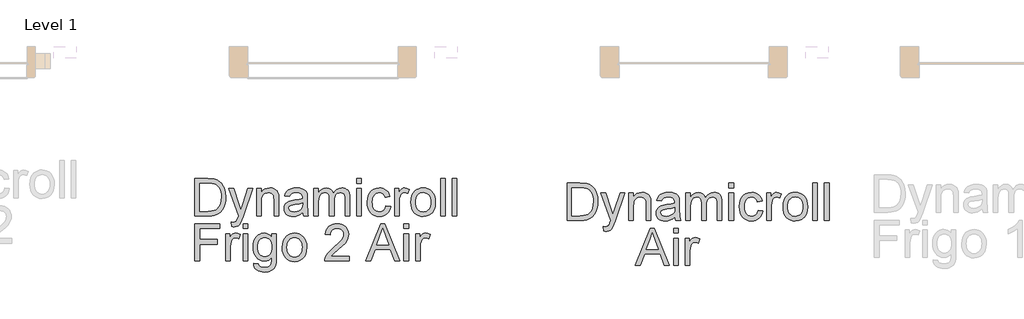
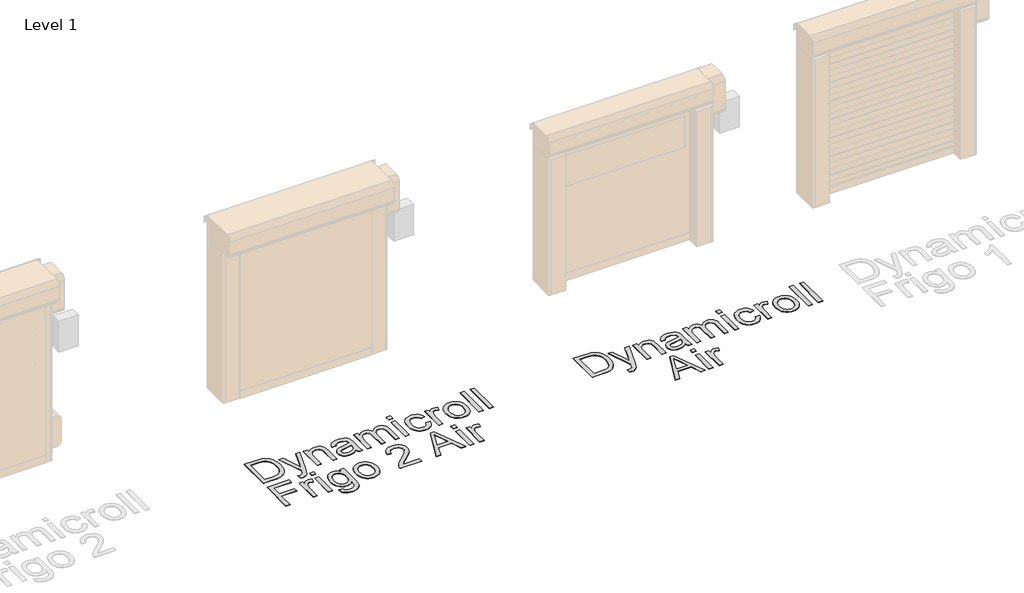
# One storey, part 5 of 20: 2 proxies.
"""IFC4 building model written with IfcOpenShell, lengths in millimetres."""

import ifcopenshell
import ifcopenshell.guid

model = None  # the IFC model being written
_history = None  # IfcOwnerHistory: only IFC2X3 demands one
_inside = {}  # id of a spatial element -> (the spatial element, [elements in it])
_under = {}  # id of a project, library or spatial element -> (it, [spatial elements below it])
_declared = {}  # id of a project -> (the project, [libraries it declares])
_typed = {}  # id of a type object -> (the type object, [elements of that type])
_made_of = {}  # id of a material, layer set ... -> (it, [elements and type objects made of it])


def new_model(schema):
    """Start an empty IFC model of exactly this schema.

    Asked for "IFC4X3", IfcOpenShell would pick the latest addendum, in which some entities
    have other attributes; the version numbers below select the first issue.
    IFC2X3 requires an IfcOwnerHistory on every rooted entity: one is made here for all.
    """
    global model, _history
    if schema == "IFC4X3":
        model = ifcopenshell.file(schema_version=(4, 3, 0, 0))
    else:
        model = ifcopenshell.file(schema=schema)
    _inside.clear()
    _under.clear()
    _declared.clear()
    _typed.clear()
    _made_of.clear()
    _history = None
    if model.schema == "IFC2X3":
        org = make("IfcOrganization", Name="unknown")
        user = make(
            "IfcPersonAndOrganization",
            ThePerson=make("IfcPerson", FamilyName="unknown"),
            TheOrganization=org,
        )
        app = make(
            "IfcApplication",
            ApplicationDeveloper=org,
            Version="unknown",
            ApplicationFullName="unknown",
            ApplicationIdentifier="unknown",
        )
        _history = make(
            "IfcOwnerHistory",
            OwningUser=user,
            OwningApplication=app,
            ChangeAction="ADDED",
            CreationDate=0,
        )
    return model


def make(cls, **values):
    """One entity of the class cls with the attributes given. An attribute that is None is left unset."""
    return model.create_entity(
        cls, **{name: value for name, value in values.items() if value is not None}
    )


def rooted(cls, **values):
    """An entity with a GlobalId (a new one), such as an element, a storey or a relation."""
    return make(cls, GlobalId=ifcopenshell.guid.new(), OwnerHistory=_history, **values)


def si_unit(unit_type, name, prefix=None):
    """IfcSIUnit, for example si_unit("LENGTHUNIT", "METRE", prefix="MILLI")."""
    return make("IfcSIUnit", UnitType=unit_type, Prefix=prefix, Name=name)


def assignment(units):
    """IfcUnitAssignment: the units of a project."""
    return None if units is None else make("IfcUnitAssignment", Units=units)


def point(xyz):
    """IfcCartesianPoint."""
    return None if xyz is None else make("IfcCartesianPoint", Coordinates=xyz)


def direction(xyz):
    """IfcDirection."""
    return None if xyz is None else make("IfcDirection", DirectionRatios=xyz)


def frame(location, z_axis=None, x_axis=None):
    """IfcAxis2Placement3D, a coordinate frame: its origin and axes. An axis left out is left unset."""
    return make(
        "IfcAxis2Placement3D",
        Location=point(location),
        Axis=direction(z_axis),
        RefDirection=direction(x_axis),
    )


def origin():
    """The frame at (0, 0, 0) with its axes left unset."""
    return frame((0.0, 0.0, 0.0))


def origin_with_axes():
    """The frame at (0, 0, 0) with the z axis (0, 0, 1) and the x axis (1, 0, 0) written out."""
    return frame((0.0, 0.0, 0.0), z_axis=(0.0, 0.0, 1.0), x_axis=(1.0, 0.0, 0.0))


def place(relative_to, where):
    """IfcLocalPlacement: puts the frame where relative to a parent placement (None: the world)."""
    return make(
        "IfcLocalPlacement", PlacementRelTo=relative_to, RelativePlacement=where
    )


def context(
    kind, dimensions, precision=None, world=None, true_north=None, identifier=None
):
    """IfcGeometricRepresentationContext, for example the 3D "Model" context."""
    return make(
        "IfcGeometricRepresentationContext",
        ContextIdentifier=identifier,
        ContextType=kind,
        CoordinateSpaceDimension=dimensions,
        Precision=precision,
        WorldCoordinateSystem=world,
        TrueNorth=true_north,
    )


def project(units=None, contexts=None):
    """IfcProject with its units and contexts."""
    return rooted(
        "IfcProject",
        Name="project",
        RepresentationContexts=contexts,
        UnitsInContext=assignment(units),
    )


def spatial(cls, under=None, at=None, **own):
    """A site, building, storey or space (cls), placed at a placement, below another one or the project."""
    s = rooted(cls, ObjectPlacement=at, **own)
    if under is not None:
        _under.setdefault(under.id(), (under, []))[1].append(s)
    return s


def polyline(points):
    """IfcPolyline through the points."""
    return make("IfcPolyline", Points=[point(p) for p in points])


def outline(outer, holes=None, kind="AREA"):
    """IfcArbitraryClosedProfileDef: a profile drawn as a closed curve; with holes, ...WithVoids."""
    if holes is None:
        return make("IfcArbitraryClosedProfileDef", ProfileType=kind, OuterCurve=outer)
    return make(
        "IfcArbitraryProfileDefWithVoids",
        ProfileType=kind,
        OuterCurve=outer,
        InnerCurves=holes,
    )


def extrude(swept, where, along, depth):
    """IfcExtrudedAreaSolid: the profile swept, set in the frame where, extruded along a direction by depth."""
    return make(
        "IfcExtrudedAreaSolid",
        SweptArea=swept,
        Position=where,
        ExtrudedDirection=direction(along),
        Depth=depth,
    )


def shape(context_of_items, identifier, shape_type, items):
    """IfcShapeRepresentation: the items that make up one representation, for example the "Body"."""
    return make(
        "IfcShapeRepresentation",
        ContextOfItems=context_of_items,
        RepresentationIdentifier=identifier,
        RepresentationType=shape_type,
        Items=items,
    )


def made_of(thing, what):
    """Note that an element or type object is made of a material, layer set ...; save() writes the relation."""
    if what is not None:
        _made_of.setdefault(what.id(), (what, []))[1].append(thing)
    return thing


def element(
    cls,
    number,
    at=None,
    inside=None,
    cuts=None,
    type_object=None,
    material=None,
    context=None,
    identifier="Body",
    shape_type=None,
    held_by="IfcProductDefinitionShape",
    body=None,
    shapes=None,
    **own,
):
    """One element of the class cls, such as IfcWall. Its Tag is "e" and its number.

    at: its placement. inside: the storey or other place that contains it. cuts: it is an
    opening in that element (IfcRelVoidsElement). A single representation is given by context,
    identifier, shape_type and body (its items); several are given by shapes. held_by: the class
    of the entity that holds the representations. save() writes the other relations.
    """
    e = rooted(cls, Tag="e%d" % number, ObjectPlacement=at, **own)
    if body is not None:
        shapes = [shape(context, identifier, shape_type, body)]
    if shapes is not None:
        e.Representation = make(held_by, Representations=shapes)
    if inside is not None:
        _inside.setdefault(inside.id(), (inside, []))[1].append(e)
    if cuts is not None:
        rooted(
            "IfcRelVoidsElement", RelatingBuildingElement=cuts, RelatedOpeningElement=e
        )
    if type_object is not None:
        _typed.setdefault(type_object.id(), (type_object, []))[1].append(e)
    return made_of(e, material)


def aggregate(whole, parts):
    """IfcRelAggregates: a whole, such as a stair, and the parts it consists of."""
    return rooted("IfcRelAggregates", RelatingObject=whole, RelatedObjects=parts)


def save(model, path):
    """Write the relations noted so far, then the file.

    IfcRelAggregates (storeys below a building ...), IfcRelContainedInSpatialStructure (elements
    in a storey), IfcRelDefinesByType, IfcRelAssociatesMaterial and IfcRelDeclares: one each for
    every whole, place, type object, material and project.
    """
    for whole, parts in _under.values():
        aggregate(whole, parts)
    for where, things in _inside.values():
        rooted(
            "IfcRelContainedInSpatialStructure",
            RelatedElements=things,
            RelatingStructure=where,
        )
    for kind, things in _typed.values():
        rooted("IfcRelDefinesByType", RelatedObjects=things, RelatingType=kind)
    for what, things in _made_of.values():
        rooted("IfcRelAssociatesMaterial", RelatedObjects=things, RelatingMaterial=what)
    for by, libraries in _declared.values():
        rooted("IfcRelDeclares", RelatingContext=by, RelatedDefinitions=libraries)
    model.write(path)


model = new_model("IFC4")

# Units and contexts
model_context = context("Model", 3, world=origin())
ifc_project = project(units=[si_unit("LENGTHUNIT", "METRE", prefix="MILLI")], contexts=[model_context])

# Site, building, storey
site = spatial("IfcSite", under=ifc_project)
building = spatial("IfcBuilding", under=site)
storey = spatial("IfcBuildingStorey", under=building, Name="Level 1", Elevation=0.0)

# Proxies
placement = place(None, origin())
element("IfcBuildingElementProxy", 1, Name="500mm", ObjectType="500mm", at=placement, inside=storey, context=model_context, shape_type="SweptSolid", body=[
    extrude(outline(polyline([(24771.8968294, 7368.7374399), (24771.8968294, 7871.0189907), (24945.1692491, 7871.0189907), (24996.94864, 7869.2102375), (25034.8098286, 7863.7839781), (25074.8476524, 7849.8351191), (25108.6314823, 7827.8541699), (25127.2478441, 7809.8892658), (25143.365674, 7789.5944424), (25156.9849721, 7766.9696997), (25168.1057382, 7742.0150377), (25182.9129885, 7686.0356608), (25187.8487386, 7622.5760166), (25184.5071438, 7568.6659759), (25174.4823595, 7521.2245269), (25159.2152567, 7480.8341495), (25140.1467066, 7448.0773235), (25118.1964142, 7422.218285), (25094.2840845, 7402.5212698), (25066.8308906, 7387.9132889), (25034.2580056, 7377.3213531), (24996.5041159, 7370.8834182), (24953.5079077, 7368.7374399), (24771.8968294, 7368.7374399)]), holes=[polyline([(24834.6820233, 7431.5226338), (24945.7823858, 7431.5226338), (24991.7369784, 7433.7912394), (25026.5937974, 7440.5970563), (25052.8973601, 7451.5415457), (25073.1921835, 7466.2261686), (25095.0045201, 7493.403451), (25111.3905973, 7528.5821668), (25121.6453079, 7571.9156002), (25125.0635448, 7623.5570352), (25123.3889153, 7660.0080096), (25118.3650268, 7691.9830863), (25109.9918793, 7719.4822655), (25098.2694728, 7742.505547), (25084.1481691, 7761.5740971), (25068.5783301, 7777.2090819), (25051.5599557, 7789.4105014), (25033.093046, 7798.1783556), (24996.9792968, 7805.7199365), (24944.0656032, 7808.2337968), (24834.6820233, 7808.2337968), (24834.6820233, 7431.5226338)])]), origin_with_axes(), (0.0, 0.0, 1.0), 5.0),
    extrude(outline(polyline([(25266.3302309, 7227.4707538), (25258.4820817, 7287.9260283), (25290.3651879, 7282.4077984), (25307.1344756, 7284.1399094), (25320.1636296, 7289.3362426), (25330.3110413, 7297.6289159), (25338.435102, 7308.6500474), (25355.6029284, 7354.8805514), (25360.5080217, 7370.0863406), (25227.0894848, 7737.6004537), (25293.3082439, 7737.6004537), (25364.0642143, 7532.8128098), (25388.712308, 7450.8977522), (25413.3604017, 7523.2478779), (25486.0784094, 7737.6004537), (25551.8066592, 7737.6004537), (25423.4158429, 7359.908272), (25390.0612086, 7277.9932144), (25372.9853527, 7251.8429359), (25353.6408911, 7233.7247477), (25331.1694326, 7223.1481403), (25304.7125858, 7219.6226045), (25286.5330838, 7221.5846418), (25266.3302309, 7227.4707538)])), origin_with_axes(), (0.0, 0.0, 1.0), 5.0),
    extrude(outline(polyline([(25603.8006478, 7368.7374399), (25603.8006478, 7737.6004537), (25666.5858417, 7737.6004537), (25666.5858417, 7686.0969744), (25688.3981783, 7712.0633119), (25714.594442, 7730.6106958), (25745.1746329, 7741.7391262), (25780.1387509, 7745.448603), (25811.0868237, 7742.4595618), (25839.4290657, 7733.4924381), (25863.0654839, 7719.6662065), (25879.8960852, 7702.0998412), (25891.3157555, 7680.8393276), (25898.7193806, 7655.9306508), (25902.0303186, 7595.2301216), (25902.0303186, 7368.7374399), (25839.2451247, 7368.7374399), (25839.2451247, 7586.7688357), (25837.4363716, 7619.2344218), (25832.0101122, 7642.319017), (25822.0006562, 7658.8583784), (25806.4423135, 7671.6882629), (25786.5000437, 7679.9196226), (25763.3388064, 7682.6634091), (25744.2740884, 7681.1229033), (25726.5659353, 7676.5013857), (25710.214347, 7668.7988564), (25695.2193236, 7658.0153155), (25682.6921753, 7642.9244894), (25673.7442122, 7622.3001051), (25668.3754343, 7596.1421624), (25666.5858417, 7564.4506613), (25666.5858417, 7368.7374399), (25603.8006478, 7368.7374399)])), origin_with_axes(), (0.0, 0.0, 1.0), 5.0),
    extrude(outline(polyline([(26223.804437, 7415.8263353), (26193.806726, 7390.1052525), (26162.9199668, 7373.2746512), (26130.4390523, 7363.9856308), (26095.6588754, 7360.8892907), (26067.7036759, 7362.7516933), (26043.1897058, 7368.3389011), (26022.1169653, 7377.6509141), (26004.4854542, 7390.6877323), (25990.56342, 7406.6216212), (25980.6191098, 7424.6248463), (25974.6525237, 7444.6974077), (25972.6636617, 7466.8393053), (25975.6680313, 7492.8669564), (25984.6811402, 7516.5033746), (25998.5840139, 7536.7368844), (26016.2576781, 7552.5558102), (26037.0276824, 7564.511975), (26060.2195765, 7573.1572019), (26114.5434845, 7582.5995064), (26178.7388926, 7592.5323203), (26223.436555, 7604.1819168), (26223.804437, 7618.1614326), (26219.4818236, 7646.1817779), (26206.5139833, 7664.514564), (26193.438844, 7672.4546838), (26177.5126193, 7678.1261979), (26137.1069135, 7682.6634091), (26099.7055773, 7679.6437111), (26073.5859557, 7670.584617), (26055.7743357, 7653.8306578), (26043.2970047, 7627.7263645), (25980.5118109, 7635.5745137), (25991.410315, 7669.9101666), (26007.6737649, 7696.8881796), (26030.8196737, 7717.5202282), (26062.3655548, 7732.8179878), (26100.9471791, 7742.2909492), (26145.2003174, 7745.448603), (26187.6447026, 7742.6588312), (26221.2905767, 7734.2895158), (26246.659106, 7721.7048859), (26264.2714565, 7706.2691705), (26275.9517099, 7687.185292), (26283.5239476, 7663.6561727), (26286.5896309, 7608.7191281), (26286.5896309, 7530.6055178), (26289.7779415, 7421.5285062), (26294.4990938, 7394.5658217), (26302.2859293, 7368.7374399), (26239.5007355, 7368.7374399), (26229.4452943, 7390.565105), (26223.804437, 7415.8263353)]), holes=[polyline([(26223.804437, 7541.396723), (26181.6206349, 7530.942743), (26122.514261, 7522.1442319), (26068.4969214, 7511.9661634), (26054.4407635, 7505.0070623), (26044.0327687, 7495.4114736), (26037.5948338, 7483.9151612), (26035.4488555, 7471.2538892), (26040.1240225, 7452.583878), (26054.1495236, 7437.2861183), (26077.2187904, 7427.077393), (26109.0252545, 7423.6744845), (26142.7477708, 7427.4299466), (26172.5462124, 7438.6963327), (26196.7037967, 7455.2970077), (26213.5037412, 7475.0553365), (26220.9533516, 7495.4114736), (26223.436555, 7523.6157599), (26223.804437, 7541.396723)])]), origin_with_axes(), (0.0, 0.0, 1.0), 5.0),
    extrude(outline(polyline([(26372.9192724, 7368.7374399), (26372.9192724, 7737.6004537), (26435.7044663, 7737.6004537), (26435.7044663, 7676.8999245), (26454.5890753, 7704.7823141), (26478.869287, 7726.6253076), (26507.7173668, 7740.7427791), (26540.3055802, 7745.448603), (26575.2237129, 7740.6508086), (26603.2134014, 7726.2574256), (26624.1213615, 7703.2188156), (26637.7943089, 7672.4853406), (26660.6796347, 7704.4067679), (26686.783928, 7727.2077874), (26716.1071887, 7740.8883991), (26748.6494168, 7745.448603), (26773.7841877, 7743.5517114), (26795.8456111, 7737.8610368), (26814.833687, 7728.3765791), (26830.7484154, 7715.0983384), (26843.3292132, 7697.8730304), (26852.3154974, 7676.547371), (26857.7072679, 7651.1213601), (26859.5045247, 7621.5949979), (26859.5045247, 7368.7374399), (26796.7193309, 7368.7374399), (26796.7193309, 7594.6169849), (26795.2631313, 7625.9329398), (26790.8945326, 7647.0401693), (26782.7091582, 7661.494866), (26769.8026315, 7672.8532226), (26753.2019565, 7680.2108625), (26733.934137, 7682.6634091), (26716.1416776, 7681.0922464), (26699.9203809, 7676.3787584), (26685.2702468, 7668.5229449), (26672.1912755, 7657.5248061), (26661.4345592, 7643.0624452), (26653.7511905, 7624.8139654), (26649.1411692, 7602.7793667), (26647.6044955, 7576.9586492), (26647.6044955, 7368.7374399), (26584.8193016, 7368.7374399), (26584.8193016, 7601.6067429), (26581.1864669, 7637.1073554), (26570.2879628, 7662.4298994), (26561.8611659, 7671.2820599), (26551.1121138, 7677.6050317), (26522.6472445, 7682.6634091), (26498.4590033, 7679.2911575), (26476.1714857, 7669.1744026), (26457.777386, 7652.5583992), (26445.2693981, 7629.6884018), (26438.0956992, 7597.9585797), (26435.7044663, 7554.7631021), (26435.7044663, 7368.7374399), (26372.9192724, 7368.7374399)])), origin_with_axes(), (0.0, 0.0, 1.0), 5.0),
    extrude(outline(polyline([(26953.6823155, 7808.2337968), (26953.6823155, 7871.0189907), (27016.4675093, 7871.0189907), (27016.4675093, 7808.2337968), (26953.6823155, 7808.2337968)])), origin_with_axes(), (0.0, 0.0, 1.0), 5.0),
    extrude(outline(polyline([(26953.6823155, 7368.7374399), (26953.6823155, 7737.6004537), (27016.4675093, 7737.6004537), (27016.4675093, 7368.7374399), (26953.6823155, 7368.7374399)])), origin_with_axes(), (0.0, 0.0, 1.0), 5.0),
    extrude(outline(polyline([(27346.089777, 7502.1559768), (27408.8749708, 7494.3078276), (27402.0461613, 7464.6818307), (27391.3699192, 7438.4664064), (27376.8462446, 7415.6615548), (27358.4751375, 7396.2672759), (27337.0306829, 7380.7894074), (27313.2869658, 7369.733787), (27287.2439862, 7363.1004148), (27258.9017441, 7360.8892907), (27223.6885394, 7363.9741345), (27192.1158336, 7373.2286659), (27164.1836267, 7388.652885), (27139.8919187, 7410.2467917), (27120.2293925, 7437.604183), (27106.1847309, 7470.3188558), (27097.7579339, 7508.3908102), (27094.9490016, 7551.8200462), (27099.746796, 7607.6921242), (27114.140179, 7656.1145918), (27124.9926979, 7677.064705), (27138.359077, 7695.2173822), (27154.2393165, 7710.5726234), (27172.6334163, 7723.1304286), (27213.6369303, 7739.8690594), (27258.0433528, 7745.448603), (27285.8989176, 7743.5325509), (27311.0950022, 7737.7843947), (27333.6316065, 7728.2041344), (27353.5087306, 7714.79177), (27370.3891492, 7697.8538698), (27383.9356372, 7677.6970022), (27394.1481947, 7654.3211671), (27401.0268216, 7627.7263645), (27338.2416278, 7619.8782153), (27326.8526143, 7647.2700955), (27309.1176365, 7666.905797), (27286.0177129, 7678.7240061), (27258.5338621, 7682.6634091), (27237.2005385, 7680.7243644), (27217.9595438, 7674.9072304), (27200.8108778, 7665.212007), (27185.7545408, 7651.6386942), (27173.4956397, 7633.8730595), (27164.7392818, 7611.6008704), (27159.485467, 7584.8221268), (27157.7341955, 7553.5368288), (27159.447146, 7521.780182), (27164.5859976, 7494.691038), (27173.1507503, 7472.2693968), (27185.1414041, 7454.5152585), (27199.8988371, 7441.0224199), (27216.7639273, 7431.384678), (27235.7366748, 7425.6020329), (27256.8170795, 7423.6744845), (27289.3286508, 7428.4876073), (27315.9847671, 7442.9269756), (27326.7644759, 7453.8484723), (27335.3752139, 7467.3604715), (27346.089777, 7502.1559768)])), origin_with_axes(), (0.0, 0.0, 1.0), 5.0),
    extrude(outline(polyline([(27463.8120154, 7368.7374399), (27463.8120154, 7737.6004537), (27518.7490601, 7737.6004537), (27518.7490601, 7683.0312911), (27539.0438835, 7714.6691427), (27557.7445516, 7733.3084971), (27576.5065333, 7742.4135765), (27596.9852977, 7745.448603), (27628.2552673, 7740.6048234), (27660.0157462, 7726.0734846), (27639.0464725, 7669.7875393), (27616.9735528, 7679.4444417), (27594.9006331, 7682.6634091), (27576.1539797, 7679.567069), (27559.4000205, 7670.2780486), (27545.8650288, 7655.5014552), (27536.7752778, 7635.9423957), (27529.1417264, 7600.8709789), (27526.5972093, 7562.6112514), (27526.5972093, 7368.7374399), (27463.8120154, 7368.7374399)])), origin_with_axes(), (0.0, 0.0, 1.0), 5.0),
    extrude(outline(polyline([(27683.5601939, 7553.1689468), (27686.9554381, 7600.9399567), (27697.1411709, 7642.1044192), (27714.1173921, 7676.6623341), (27737.8841019, 7704.6137015), (27761.81176, 7722.4789709), (27788.2226215, 7735.2398776), (27817.1166866, 7742.8964216), (27848.4939551, 7745.448603), (27883.1323442, 7742.3407665), (27914.4521311, 7733.0172572), (27942.4533159, 7717.478075), (27967.1358985, 7695.72322), (27987.2812699, 7668.488456), (28001.6708208, 7636.5095471), (28010.3045514, 7599.7864934), (28013.1824616, 7558.3192948), (28008.0934273, 7494.8903074), (28001.7321345, 7468.8549921), (27992.8263245, 7446.6057956), (27981.4871284, 7427.3877934), (27967.8256773, 7410.4460611), (27951.841971, 7395.7805987), (27933.5360096, 7383.3914061), (27892.8084071, 7366.5148195), (27848.4939551, 7360.8892907), (27813.3497282, 7363.9856308), (27781.7387014, 7373.2746512), (27753.6608745, 7388.7563518), (27729.1162476, 7410.4307327), (27709.1854741, 7437.9299118), (27694.9492073, 7470.8860072), (27686.4074473, 7509.2990189), (27683.5601939, 7553.1689468)]), holes=[polyline([(27746.3453877, 7553.2915742), (27748.1618051, 7522.8378427), (27753.6110571, 7496.4691343), (27762.6931439, 7474.1854489), (27775.4080654, 7455.9867864), (27790.8744376, 7441.8501543), (27808.2108766, 7431.75256), (27827.4173824, 7425.6940034), (27848.4939551, 7423.6744845), (27869.4632288, 7425.7054997), (27888.5930925, 7431.7985453), (27905.8835463, 7441.9536212), (27921.3345901, 7456.1707274), (27934.0495116, 7474.5494988), (27943.1315983, 7497.1895699), (27948.5808504, 7524.0909408), (27950.3972677, 7555.2536115), (27948.5693541, 7584.7416526), (27943.0856131, 7610.4205823), (27933.9460448, 7632.2904005), (27921.1506491, 7650.3511072), (27905.6421238, 7664.4877393), (27888.3631663, 7674.5853337), (27869.3137767, 7680.6438903), (27848.4939551, 7682.6634091), (27827.4173824, 7680.6515545), (27808.2108766, 7674.6159905), (27790.8744376, 7664.5567172), (27775.4080654, 7650.4737346), (27762.6931439, 7632.3287216), (27753.6110571, 7610.0833572), (27748.1618051, 7583.7376414), (27746.3453877, 7553.2915742)])]), origin_with_axes(), (0.0, 0.0, 1.0), 5.0),
    extrude(outline(polyline([(28083.8158047, 7368.7374399), (28083.8158047, 7871.0189907), (28146.6009985, 7871.0189907), (28146.6009985, 7368.7374399), (28083.8158047, 7368.7374399)])), origin_with_axes(), (0.0, 0.0, 1.0), 5.0),
    extrude(outline(polyline([(28240.7787893, 7368.7374399), (28240.7787893, 7871.0189907), (28303.5639831, 7871.0189907), (28303.5639831, 7368.7374399), (28240.7787893, 7368.7374399)])), origin_with_axes(), (0.0, 0.0, 1.0), 5.0),
    extrude(outline(polyline([(24771.8968294, 6758.8633507), (24771.8968294, 7261.1449014), (25109.3672463, 7261.1449014), (25109.3672463, 7198.3597076), (24834.6820233, 7198.3597076), (24834.6820233, 7049.2448722), (25070.1265002, 7049.2448722), (25070.1265002, 6986.4596784), (24834.6820233, 6986.4596784), (24834.6820233, 6758.8633507), (24771.8968294, 6758.8633507)])), origin_with_axes(), (0.0, 0.0, 1.0), 5.0),
    extrude(outline(polyline([(25187.8487386, 6758.8633507), (25187.8487386, 7127.7263645), (25242.7857832, 7127.7263645), (25242.7857832, 7073.1572019), (25263.0806066, 7104.7950535), (25281.7812747, 7123.4344079), (25300.5432565, 7132.5394873), (25321.0220209, 7135.5745137), (25352.2919905, 7130.7307341), (25384.0524694, 7116.1993953), (25363.0831957, 7059.9134501), (25341.0102759, 7069.5703524), (25318.9373562, 7072.7893199), (25300.1907029, 7069.6929798), (25283.4367437, 7060.4039594), (25269.901752, 7045.6273659), (25260.812001, 7026.0683065), (25253.1784496, 6990.9968896), (25250.6339325, 6952.7371621), (25250.6339325, 6758.8633507), (25187.8487386, 6758.8633507)])), origin_with_axes(), (0.0, 0.0, 1.0), 5.0),
    extrude(outline(polyline([(25423.2932155, 7198.3597076), (25423.2932155, 7261.1449014), (25486.0784094, 7261.1449014), (25486.0784094, 7198.3597076), (25423.2932155, 7198.3597076)])), origin_with_axes(), (0.0, 0.0, 1.0), 5.0),
    extrude(outline(polyline([(25423.2932155, 6758.8633507), (25423.2932155, 7127.7263645), (25486.0784094, 7127.7263645), (25486.0784094, 6758.8633507), (25423.2932155, 6758.8633507)])), origin_with_axes(), (0.0, 0.0, 1.0), 5.0),
    extrude(outline(polyline([(25564.5599017, 6727.4707538), (25627.3450955, 6719.6226045), (25634.2735398, 6700.0022315), (25647.7012326, 6686.513225), (25674.0967657, 6676.0285881), (25708.6470165, 6672.5337091), (25745.4965296, 6676.4884406), (25772.9037383, 6688.3526349), (25791.9109747, 6707.3598714), (25803.5605712, 6732.743729), (25806.9634797, 6759.7523988), (25807.8525278, 6805.9522461), (25786.9598962, 6785.3508543), (25763.6453747, 6770.6355745), (25737.9089635, 6761.8064066), (25709.7506624, 6758.8633507), (25675.3268712, 6762.2892518), (25645.0187597, 6772.566955), (25618.8263281, 6789.6964604), (25596.7495763, 6813.677768), (25579.2330283, 6842.4492057), (25566.7212084, 6873.9491015), (25559.2141164, 6908.1774555), (25556.7117525, 6945.1342676), (25561.2029785, 6995.8253408), (25574.6766565, 7042.4390553), (25596.6576058, 7081.9403845), (25610.6601142, 7097.8857698), (25626.6706452, 7111.2943021), (25644.4324478, 7121.9168947), (25663.688771, 7129.5044608), (25684.4396148, 7134.0570005), (25706.6849792, 7135.5745137), (25736.0465609, 7132.1409485), (25762.6950129, 7121.8402526), (25786.6303352, 7104.6724262), (25807.8525278, 7080.6374691), (25807.8525278, 7127.7263645), (25870.6377217, 7127.7263645), (25870.6377217, 6809.263184), (25866.3457651, 6735.7327702), (25860.9808193, 6708.3830432), (25853.4698952, 6687.3103026), (25831.2896766, 6655.1972701), (25799.0846736, 6630.5951617), (25779.3991548, 6621.4747539), (25757.5599934, 6614.9601769), (25707.4207431, 6609.7485153), (25676.6604434, 6611.5840932), (25649.004148, 6617.0908268), (25624.4518569, 6626.2687162), (25603.0035702, 6639.1177613), (25585.6786275, 6655.6532905), (25573.4963685, 6675.8906324), (25566.4567932, 6699.8297868), (25564.5599017, 6727.4707538)]), holes=[polyline([(25619.4969463, 6949.4262242), (25621.1715758, 6918.3823487), (25626.1954643, 6891.8373635), (25634.5686118, 6869.7912685), (25646.2910183, 6852.2440638), (25660.5426135, 6838.8585241), (25676.5033271, 6829.2974243), (25694.1731592, 6823.5607645), (25713.5521097, 6821.6485445), (25732.739455, 6823.5492682), (25750.3249808, 6829.2514391), (25766.3086871, 6838.7550573), (25780.6905738, 6852.0601228), (25792.5739287, 6869.4348829), (25801.0620393, 6891.1475848), (25806.1549057, 6917.1982286), (25807.8525278, 6947.5868142), (25806.1050883, 6976.7069734), (25800.8627699, 7002.0180211), (25792.1255725, 7023.5199573), (25779.8934962, 7041.212782), (25765.201209, 7055.0275173), (25749.0833791, 7064.8951854), (25731.5400065, 7070.8157863), (25712.5710911, 7072.7893199), (25693.9202403, 7070.8464431), (25676.717925, 7065.0178128), (25660.9641449, 7055.3034288), (25646.6589003, 7041.7032913), (25634.7755454, 7024.2787139), (25626.2874348, 7003.0910102), (25621.1945684, 6978.1401803), (25619.4969463, 6949.4262242)])]), origin_with_axes(), (0.0, 0.0, 1.0), 5.0),
    extrude(outline(polyline([(25949.119214, 6943.2948576), (25952.5144582, 6991.0658675), (25962.700191, 7032.2303299), (25979.6764122, 7066.7882449), (26003.4431219, 7094.7396123), (26027.37078, 7112.6048817), (26053.7816416, 7125.3657884), (26082.6757066, 7133.0223324), (26114.0529751, 7135.5745137), (26148.6913643, 7132.4666773), (26180.0111512, 7123.143168), (26208.012336, 7107.6039858), (26232.6949186, 7085.8491307), (26252.8402899, 7058.6143668), (26267.2298409, 7026.6354579), (26275.8635715, 6989.9124042), (26278.7414817, 6948.4452055), (26273.6524474, 6885.0162182), (26267.2911546, 6858.9809028), (26258.3853446, 6836.7317063), (26247.0461485, 6817.5137042), (26233.3846973, 6800.5719719), (26217.4009911, 6785.9065094), (26199.0950297, 6773.5173168), (26158.3674271, 6756.6407303), (26114.0529751, 6751.0152015), (26078.9087483, 6754.1115416), (26047.2977214, 6763.400562), (26019.2198946, 6778.8822626), (25994.6752677, 6800.5566435), (25974.7444942, 6828.0558226), (25960.5082274, 6861.011918), (25951.9664673, 6899.4249297), (25949.119214, 6943.2948576)]), holes=[polyline([(26011.9044078, 6943.4174849), (26013.7208252, 6912.9637535), (26019.1700772, 6886.5950451), (26028.252164, 6864.3113597), (26040.9670854, 6846.1126972), (26056.4334577, 6831.9760651), (26073.7698967, 6821.8784708), (26092.9764025, 6815.8199142), (26114.0529751, 6813.8003953), (26135.0222489, 6815.8314105), (26154.1521126, 6821.924456), (26171.4425664, 6832.0795319), (26186.8936102, 6846.2966382), (26199.6085316, 6864.6754095), (26208.6906184, 6887.3154807), (26214.1398705, 6914.2168516), (26215.9562878, 6945.3795222), (26214.1283741, 6974.8675634), (26208.6446332, 7000.5464931), (26199.5050648, 7022.4163113), (26186.7096692, 7040.477018), (26171.2011438, 7054.6136501), (26153.9221864, 7064.7112444), (26134.8727968, 7070.769801), (26114.0529751, 7072.7893199), (26092.9764025, 7070.7774652), (26073.7698967, 7064.7419013), (26056.4334577, 7054.682628), (26040.9670854, 7040.5996453), (26028.252164, 7022.4546323), (26019.1700772, 7000.2092679), (26013.7208252, 6973.8635521), (26011.9044078, 6943.4174849)])]), origin_with_axes(), (0.0, 0.0, 1.0), 5.0),
    extrude(outline(polyline([(26851.6563755, 6821.6485445), (26851.6563755, 6758.8633507), (26522.0341078, 6758.8633507), (26523.4136653, 6780.9669272), (26528.778611, 6802.1507988), (26544.2603117, 6835.9806139), (26566.9157112, 6868.7987536), (26599.6878656, 6903.1497349), (26645.5198308, 6941.578075), (26713.2714316, 7001.757438), (26753.9223921, 7046.1791889), (26774.2478723, 7082.2316244), (26779.3292424, 7099.8899602), (26781.0230324, 7117.3030413), (26779.425045, 7133.6852864), (26774.6310827, 7148.7416235), (26766.6411457, 7162.4720525), (26755.4552337, 7174.8765736), (26741.6941479, 7185.1504447), (26725.9786889, 7192.4889241), (26708.3088568, 7196.8920117), (26688.6846516, 7198.3597076), (26649.5205475, 7192.6268798), (26633.2149445, 7185.4608451), (26619.0936409, 7175.4283966), (26607.6701385, 7162.8667593), (26599.4579394, 7148.1131584), (26594.4570435, 7131.167594), (26592.6674509, 7112.0300661), (26529.882257, 7119.8782153), (26535.2816917, 7152.2901519), (26545.1033746, 7180.6094013), (26559.3473056, 7204.8359635), (26578.0134847, 7224.9698386), (26600.6727164, 7240.7964286), (26626.8958048, 7252.1011357), (26656.6827501, 7258.88396), (26690.0335523, 7261.1449014), (26723.6832585, 7258.6310411), (26753.6311522, 7251.0894602), (26779.8772333, 7238.5201587), (26802.4215018, 7220.9231366), (26820.5281937, 7199.6013093), (26833.4615451, 7175.8575922), (26841.221556, 7149.6919853), (26843.8082262, 7121.1044886), (26841.0184544, 7091.0761207), (26832.6491391, 7061.568919), (26817.7959035, 7031.5558796), (26795.5543712, 7000.0099985), (26760.0997439, 6962.3480793), (26705.6072234, 6913.9869253), (26633.379725, 6853.5929644), (26605.0528114, 6821.6485445), (26851.6563755, 6821.6485445)])), origin_with_axes(), (0.0, 0.0, 1.0), 5.0),
    extrude(outline(polyline([(27075.6965105, 6758.8633507), (27276.1921979, 7261.1449014), (27329.6577145, 7261.1449014), (27530.1534019, 6758.8633507), (27463.8120154, 6758.8633507), (27406.2997969, 6915.8263353), (27199.4274882, 6915.8263353), (27142.037897, 6758.8633507), (27075.6965105, 6758.8633507)]), holes=[polyline([(27222.4814266, 6978.6115291), (27383.3684858, 6978.6115291), (27338.1190004, 7102.0972522), (27302.9249562, 7198.3597076), (27271.6549866, 7112.8884574), (27222.4814266, 6978.6115291)])]), origin_with_axes(), (0.0, 0.0, 1.0), 5.0),
    extrude(outline(polyline([(27589.3824031, 7198.3597076), (27589.3824031, 7261.1449014), (27652.167597, 7261.1449014), (27652.167597, 7198.3597076), (27589.3824031, 7198.3597076)])), origin_with_axes(), (0.0, 0.0, 1.0), 5.0),
    extrude(outline(polyline([(27589.3824031, 6758.8633507), (27589.3824031, 7127.7263645), (27652.167597, 7127.7263645), (27652.167597, 6758.8633507), (27589.3824031, 6758.8633507)])), origin_with_axes(), (0.0, 0.0, 1.0), 5.0),
    extrude(outline(polyline([(27746.3453877, 6758.8633507), (27746.3453877, 7127.7263645), (27801.2824324, 7127.7263645), (27801.2824324, 7073.1572019), (27821.5772558, 7104.7950535), (27840.2779238, 7123.4344079), (27859.0399056, 7132.5394873), (27879.51867, 7135.5745137), (27910.7886396, 7130.7307341), (27942.5491185, 7116.1993953), (27921.5798448, 7059.9134501), (27899.5069251, 7069.5703524), (27877.4340054, 7072.7893199), (27858.687352, 7069.6929798), (27841.9333928, 7060.4039594), (27828.3984011, 7045.6273659), (27819.3086501, 7026.0683065), (27811.6750987, 6990.9968896), (27809.1305816, 6952.7371621), (27809.1305816, 6758.8633507), (27746.3453877, 6758.8633507)])), origin_with_axes(), (0.0, 0.0, 1.0), 5.0),
])
element("IfcBuildingElementProxy", 2, Name="500mm", ObjectType="500mm", at=placement, inside=storey, context=model_context, shape_type="SweptSolid", body=[
    extrude(outline(polyline([(29787.548359, 7308.3079034), (29787.548359, 7810.5894542), (29960.8207787, 7810.5894542), (30012.6001695, 7808.780701), (30050.4613582, 7803.3544416), (30090.499182, 7789.4055826), (30124.2830119, 7767.4246334), (30142.8993737, 7749.4597293), (30159.0172036, 7729.1649059), (30172.6365016, 7706.5401632), (30183.7572678, 7681.5855012), (30198.5645181, 7625.6061242), (30203.5002682, 7562.1464801), (30200.1586734, 7508.2364394), (30190.133889, 7460.7949904), (30174.8667862, 7420.404613), (30155.7982362, 7387.647787), (30133.8479438, 7361.7887485), (30109.9356141, 7342.0917333), (30082.4824202, 7327.4837524), (30049.9095352, 7316.8918166), (30012.1556455, 7310.4538817), (29969.1594373, 7308.3079034), (29787.548359, 7308.3079034)]), holes=[polyline([(29850.3335528, 7371.0930973), (29961.4339154, 7371.0930973), (30007.3885079, 7373.3617029), (30042.245327, 7380.1675198), (30068.5488896, 7391.1120092), (30088.843713, 7405.7966321), (30110.6560497, 7432.9739145), (30127.0421269, 7468.1526303), (30137.2968375, 7511.4860637), (30140.7150744, 7563.1274987), (30139.0404449, 7599.5784731), (30134.0165564, 7631.5535498), (30125.6434089, 7659.052729), (30113.9210024, 7682.0760105), (30099.7996987, 7701.1445606), (30084.2298597, 7716.7795454), (30067.2114853, 7728.9809649), (30048.7445756, 7737.7488191), (30012.6308264, 7745.2904), (29959.7171327, 7747.8042603), (29850.3335528, 7747.8042603), (29850.3335528, 7371.0930973)])]), origin_with_axes(), (0.0, 0.0, 1.0), 5.0),
    extrude(outline(polyline([(30281.9817605, 7167.0412173), (30274.1336113, 7227.4964918), (30306.0167175, 7221.9782619), (30322.7860051, 7223.7103729), (30335.8151591, 7228.9067061), (30345.9625708, 7237.1993794), (30354.0866316, 7248.2205109), (30371.254458, 7294.4510149), (30376.1595513, 7309.6568041), (30242.7410144, 7677.1709172), (30308.9597735, 7677.1709172), (30379.7157439, 7472.3832733), (30404.3638376, 7390.4682157), (30429.0119312, 7462.8183414), (30501.729939, 7677.1709172), (30567.4581888, 7677.1709172), (30439.0673724, 7299.4787355), (30405.7127382, 7217.5636779), (30388.6368823, 7191.4133994), (30369.2924207, 7173.2952112), (30346.8209622, 7162.7186038), (30320.3641153, 7159.193068), (30302.1846134, 7161.1551053), (30281.9817605, 7167.0412173)])), origin_with_axes(), (0.0, 0.0, 1.0), 5.0),
    extrude(outline(polyline([(30619.4521774, 7308.3079034), (30619.4521774, 7677.1709172), (30682.2373713, 7677.1709172), (30682.2373713, 7625.6674379), (30704.0497079, 7651.6337754), (30730.2459716, 7670.1811593), (30760.8261625, 7681.3095897), (30795.7902804, 7685.0190665), (30826.7383533, 7682.0300253), (30855.0805953, 7673.0629016), (30878.7170135, 7659.23667), (30895.5476148, 7641.6703047), (30906.9672851, 7620.4097911), (30914.3709102, 7595.5011143), (30917.6818482, 7534.8005851), (30917.6818482, 7308.3079034), (30854.8966543, 7308.3079034), (30854.8966543, 7526.3392992), (30853.0879012, 7558.8048853), (30847.6616418, 7581.8894805), (30837.6521858, 7598.4288419), (30822.0938431, 7611.2587264), (30802.1515733, 7619.4900861), (30778.990336, 7622.2338726), (30759.925618, 7620.6933668), (30742.2174649, 7616.0718492), (30725.8658766, 7608.3693199), (30710.8708532, 7597.585779), (30698.3437049, 7582.4949529), (30689.3957417, 7561.8705686), (30684.0269639, 7535.7126259), (30682.2373713, 7504.0211248), (30682.2373713, 7308.3079034), (30619.4521774, 7308.3079034)])), origin_with_axes(), (0.0, 0.0, 1.0), 5.0),
    extrude(outline(polyline([(31239.4559666, 7355.3967988), (31209.4582556, 7329.675716), (31178.5714964, 7312.8451147), (31146.0905819, 7303.5560943), (31111.310405, 7300.4597542), (31083.3552054, 7302.3221568), (31058.8412354, 7307.9093646), (31037.7684949, 7317.2213776), (31020.1369838, 7330.2581958), (31006.2149496, 7346.1920847), (30996.2706394, 7364.1953098), (30990.3040533, 7384.2678712), (30988.3151912, 7406.4097688), (30991.3195609, 7432.4374199), (31000.3326698, 7456.0738381), (31014.2355435, 7476.3073479), (31031.9092077, 7492.1262737), (31052.679212, 7504.0824385), (31075.8711061, 7512.7276654), (31130.195014, 7522.1699699), (31194.3904222, 7532.1027838), (31239.0880846, 7543.7523803), (31239.4559666, 7557.7318961), (31235.1333532, 7585.7522414), (31222.1655128, 7604.0850275), (31209.0903736, 7612.0251473), (31193.1641489, 7617.6966614), (31152.7584431, 7622.2338726), (31115.3571069, 7619.2141746), (31089.2374853, 7610.1550805), (31071.4258653, 7593.4011213), (31058.9485343, 7567.296828), (30996.1633405, 7575.1449772), (31007.0618446, 7609.4806301), (31023.3252945, 7636.4586431), (31046.4712033, 7657.0906917), (31078.0170844, 7672.3884513), (31116.5987086, 7681.8614127), (31160.851847, 7685.0190665), (31203.2962322, 7682.2292947), (31236.9421063, 7673.8599793), (31262.3106356, 7661.2753494), (31279.9229861, 7645.839634), (31291.6032394, 7626.7557555), (31299.1754772, 7603.2266362), (31302.2411605, 7548.2895916), (31302.2411605, 7470.1759813), (31305.4294711, 7361.0989697), (31310.1506234, 7334.1362852), (31317.9374589, 7308.3079034), (31255.1522651, 7308.3079034), (31245.0968239, 7330.1355685), (31239.4559666, 7355.3967988)]), holes=[polyline([(31239.4559666, 7480.9671865), (31197.2721645, 7470.5132064), (31138.1657906, 7461.7146954), (31084.148451, 7451.5366269), (31070.0922931, 7444.5775258), (31059.6842983, 7434.9819371), (31053.2463634, 7423.4856247), (31051.1003851, 7410.8243527), (31055.7755521, 7392.1543415), (31069.8010532, 7376.8565818), (31092.87032, 7366.6478565), (31124.6767841, 7363.244948), (31158.3993003, 7367.0004101), (31188.197742, 7378.2667962), (31212.3553263, 7394.8674712), (31229.1552708, 7414.6258), (31236.6048812, 7434.9819371), (31239.0880846, 7463.1862234), (31239.4559666, 7480.9671865)])]), origin_with_axes(), (0.0, 0.0, 1.0), 5.0),
    extrude(outline(polyline([(31388.570802, 7308.3079034), (31388.570802, 7677.1709172), (31451.3559958, 7677.1709172), (31451.3559958, 7616.470388), (31470.2406049, 7644.3527776), (31494.5208166, 7666.1957711), (31523.3688964, 7680.3132426), (31555.9571098, 7685.0190665), (31590.8752425, 7680.2212721), (31618.864931, 7665.8278891), (31639.772891, 7642.7892791), (31653.4458385, 7612.0558041), (31676.3311643, 7643.9772314), (31702.4354575, 7666.7782509), (31731.7587182, 7680.4588626), (31764.3009464, 7685.0190665), (31789.4357173, 7683.1221749), (31811.4971407, 7677.4315003), (31830.4852166, 7667.9470426), (31846.399945, 7654.6688019), (31858.9807428, 7637.4434939), (31867.967027, 7616.1178345), (31873.3587975, 7590.6918236), (31875.1560543, 7561.1654614), (31875.1560543, 7308.3079034), (31812.3708604, 7308.3079034), (31812.3708604, 7534.1874484), (31810.9146609, 7565.5034033), (31806.5460622, 7586.6106328), (31798.3606878, 7601.0653295), (31785.4541611, 7612.4236861), (31768.8534861, 7619.781326), (31749.5856666, 7622.2338726), (31731.7932072, 7620.6627099), (31715.5719105, 7615.9492219), (31700.9217764, 7608.0934084), (31687.8428051, 7597.0952696), (31677.0860888, 7582.6329087), (31669.4027201, 7564.3844289), (31664.7926988, 7542.3498302), (31663.2560251, 7516.5291127), (31663.2560251, 7308.3079034), (31600.4708312, 7308.3079034), (31600.4708312, 7541.1772064), (31596.8379965, 7576.6778189), (31585.9394924, 7602.0003629), (31577.5126955, 7610.8525234), (31566.7636434, 7617.1754952), (31538.298774, 7622.2338726), (31514.1105328, 7618.861621), (31491.8230153, 7608.7448661), (31473.4289155, 7592.1288627), (31460.9209277, 7569.2588653), (31453.7472288, 7537.5290432), (31451.3559958, 7494.3335656), (31451.3559958, 7308.3079034), (31388.570802, 7308.3079034)])), origin_with_axes(), (0.0, 0.0, 1.0), 5.0),
    extrude(outline(polyline([(31969.333845, 7747.8042603), (31969.333845, 7810.5894542), (32032.1190389, 7810.5894542), (32032.1190389, 7747.8042603), (31969.333845, 7747.8042603)])), origin_with_axes(), (0.0, 0.0, 1.0), 5.0),
    extrude(outline(polyline([(31969.333845, 7308.3079034), (31969.333845, 7677.1709172), (32032.1190389, 7677.1709172), (32032.1190389, 7308.3079034), (31969.333845, 7308.3079034)])), origin_with_axes(), (0.0, 0.0, 1.0), 5.0),
    extrude(outline(polyline([(32361.7413066, 7441.7264403), (32424.5265004, 7433.8782911), (32417.6976909, 7404.2522942), (32407.0214488, 7378.0368699), (32392.4977742, 7355.2320183), (32374.1266671, 7335.8377394), (32352.6822124, 7320.3598709), (32328.9384953, 7309.3042505), (32302.8955158, 7302.6708783), (32274.5532737, 7300.4597542), (32239.340069, 7303.544598), (32207.7673632, 7312.7991294), (32179.8351563, 7328.2233485), (32155.5434483, 7349.8172552), (32135.8809221, 7377.1746465), (32121.8362605, 7409.8893193), (32113.4094635, 7447.9612737), (32110.6005312, 7491.3905097), (32115.3983255, 7547.2625877), (32129.7917086, 7595.6850553), (32140.6442275, 7616.6351685), (32154.0106066, 7634.7878457), (32169.8908461, 7650.1430869), (32188.2849458, 7662.7008921), (32229.2884599, 7679.4395229), (32273.6948824, 7685.0190665), (32301.5504472, 7683.1030144), (32326.7465318, 7677.3548582), (32349.2831361, 7667.7745979), (32369.1602601, 7654.3622335), (32386.0406788, 7637.4243333), (32399.5871668, 7617.2674657), (32409.7997243, 7593.8916306), (32416.6783512, 7567.296828), (32353.8931573, 7559.4486788), (32342.5041439, 7586.840559), (32324.7691661, 7606.4762605), (32301.6692424, 7618.2944696), (32274.1853917, 7622.2338726), (32252.8520681, 7620.2948279), (32233.6110733, 7614.4776939), (32216.4624074, 7604.7824705), (32201.4060703, 7591.2091577), (32189.1471693, 7573.443523), (32180.3908114, 7551.1713339), (32175.1369966, 7524.3925903), (32173.385725, 7493.1072923), (32175.0986756, 7461.3506455), (32180.2375272, 7434.2615015), (32188.8022799, 7411.8398603), (32200.7929337, 7394.085722), (32215.5503666, 7380.5928834), (32232.4154568, 7370.9551415), (32251.3882043, 7365.1724964), (32272.4686091, 7363.244948), (32304.9801804, 7368.0580708), (32331.6362966, 7382.4974391), (32342.4160055, 7393.4189358), (32351.0267435, 7406.9309349), (32361.7413066, 7441.7264403)])), origin_with_axes(), (0.0, 0.0, 1.0), 5.0),
    extrude(outline(polyline([(32479.463545, 7308.3079034), (32479.463545, 7677.1709172), (32534.4005896, 7677.1709172), (32534.4005896, 7622.6017546), (32554.695413, 7654.2396062), (32573.3960811, 7672.8789606), (32592.1580629, 7681.98404), (32612.6368273, 7685.0190665), (32643.9067969, 7680.1752869), (32675.6672758, 7665.6439481), (32654.6980021, 7609.3580028), (32632.6250824, 7619.0149052), (32610.5521626, 7622.2338726), (32591.8055093, 7619.1375325), (32575.0515501, 7609.8485121), (32561.5165584, 7595.0719186), (32552.4268074, 7575.5128592), (32544.793256, 7540.4414424), (32542.2487389, 7502.1817149), (32542.2487389, 7308.3079034), (32479.463545, 7308.3079034)])), origin_with_axes(), (0.0, 0.0, 1.0), 5.0),
    extrude(outline(polyline([(32699.2117235, 7492.7394103), (32702.6069677, 7540.5104202), (32712.7927005, 7581.6748827), (32729.7689217, 7616.2327976), (32753.5356314, 7644.184165), (32777.4632895, 7662.0494344), (32803.8741511, 7674.8103411), (32832.7682161, 7682.4668851), (32864.1454846, 7685.0190665), (32898.7838738, 7681.91123), (32930.1036607, 7672.5877207), (32958.1048455, 7657.0485385), (32982.7874281, 7635.2936835), (33002.9327994, 7608.0589195), (33017.3223504, 7576.0800106), (33025.956081, 7539.3569569), (33028.8339912, 7497.8897583), (33023.7449569, 7434.4607709), (33017.3836641, 7408.4254556), (33008.4778541, 7386.1762591), (32997.138658, 7366.9582569), (32983.4772068, 7350.0165246), (32967.4935006, 7335.3510622), (32949.1875392, 7322.9618696), (32908.4599367, 7306.085283), (32864.1454846, 7300.4597542), (32829.0012578, 7303.5560943), (32797.3902309, 7312.8451147), (32769.3124041, 7328.3268153), (32744.7677772, 7350.0011962), (32724.8370037, 7377.5003753), (32710.6007369, 7410.4564707), (32702.0589768, 7448.8694824), (32699.2117235, 7492.7394103)]), holes=[polyline([(32761.9969173, 7492.8620377), (32763.8133347, 7462.4083062), (32769.2625867, 7436.0395978), (32778.3446735, 7413.7559124), (32791.0595949, 7395.5572499), (32806.5259672, 7381.4206178), (32823.8624062, 7371.3230235), (32843.068912, 7365.2644669), (32864.1454846, 7363.244948), (32885.1147584, 7365.2759632), (32904.2446221, 7371.3690087), (32921.5350759, 7381.5240847), (32936.9861197, 7395.7411909), (32949.7010412, 7414.1199623), (32958.7831279, 7436.7600334), (32964.23238, 7463.6614043), (32966.0487973, 7494.824075), (32964.2208836, 7524.3121161), (32958.7371427, 7549.9910458), (32949.5975743, 7571.860864), (32936.8021787, 7589.9215707), (32921.2936533, 7604.0582028), (32904.0146959, 7614.1557971), (32884.9653063, 7620.2143538), (32864.1454846, 7622.2338726), (32843.068912, 7620.222018), (32823.8624062, 7614.186454), (32806.5259672, 7604.1271807), (32791.0595949, 7590.044198), (32778.3446735, 7571.8991851), (32769.2625867, 7549.6538207), (32763.8133347, 7523.3081049), (32761.9969173, 7492.8620377)])]), origin_with_axes(), (0.0, 0.0, 1.0), 5.0),
    extrude(outline(polyline([(33099.4673342, 7308.3079034), (33099.4673342, 7810.5894542), (33162.2525281, 7810.5894542), (33162.2525281, 7308.3079034), (33099.4673342, 7308.3079034)])), origin_with_axes(), (0.0, 0.0, 1.0), 5.0),
    extrude(outline(polyline([(33256.4303188, 7308.3079034), (33256.4303188, 7810.5894542), (33319.2155127, 7810.5894542), (33319.2155127, 7308.3079034), (33256.4303188, 7308.3079034)])), origin_with_axes(), (0.0, 0.0, 1.0), 5.0),
    extrude(outline(polyline([(30710.0737756, 6698.4338142), (30910.5694629, 7200.7153649), (30964.0349796, 7200.7153649), (31164.5306669, 6698.4338142), (31098.1892805, 6698.4338142), (31040.6770619, 6855.3967988), (30833.8047533, 6855.3967988), (30776.415162, 6698.4338142), (30710.0737756, 6698.4338142)]), holes=[polyline([(30856.8586916, 6918.1819926), (31017.7457509, 6918.1819926), (30972.4962655, 7041.6677157), (30937.3022212, 7137.9301711), (30906.0322517, 7052.4589209), (30856.8586916, 6918.1819926)])]), origin_with_axes(), (0.0, 0.0, 1.0), 5.0),
    extrude(outline(polyline([(31223.7596682, 7137.9301711), (31223.7596682, 7200.7153649), (31286.544862, 7200.7153649), (31286.544862, 7137.9301711), (31223.7596682, 7137.9301711)])), origin_with_axes(), (0.0, 0.0, 1.0), 5.0),
    extrude(outline(polyline([(31223.7596682, 6698.4338142), (31223.7596682, 7067.296828), (31286.544862, 7067.296828), (31286.544862, 6698.4338142), (31223.7596682, 6698.4338142)])), origin_with_axes(), (0.0, 0.0, 1.0), 5.0),
    extrude(outline(polyline([(31380.7226528, 6698.4338142), (31380.7226528, 7067.296828), (31435.6596974, 7067.296828), (31435.6596974, 7012.7276654), (31455.9545208, 7044.365517), (31474.6551889, 7063.0048714), (31493.4171706, 7072.1099508), (31513.895935, 7075.1449772), (31545.1659046, 7070.3011976), (31576.9263835, 7055.7698588), (31555.9571098, 6999.4839136), (31533.8841901, 7009.1408159), (31511.8112704, 7012.3597834), (31493.064617, 7009.2634433), (31476.3106578, 6999.9744229), (31462.7756661, 6985.1978294), (31453.6859151, 6965.63877), (31446.0523637, 6930.5673531), (31443.5078466, 6892.3076256), (31443.5078466, 6698.4338142), (31380.7226528, 6698.4338142)])), origin_with_axes(), (0.0, 0.0, 1.0), 5.0),
])

save(model, "model.ifc")
